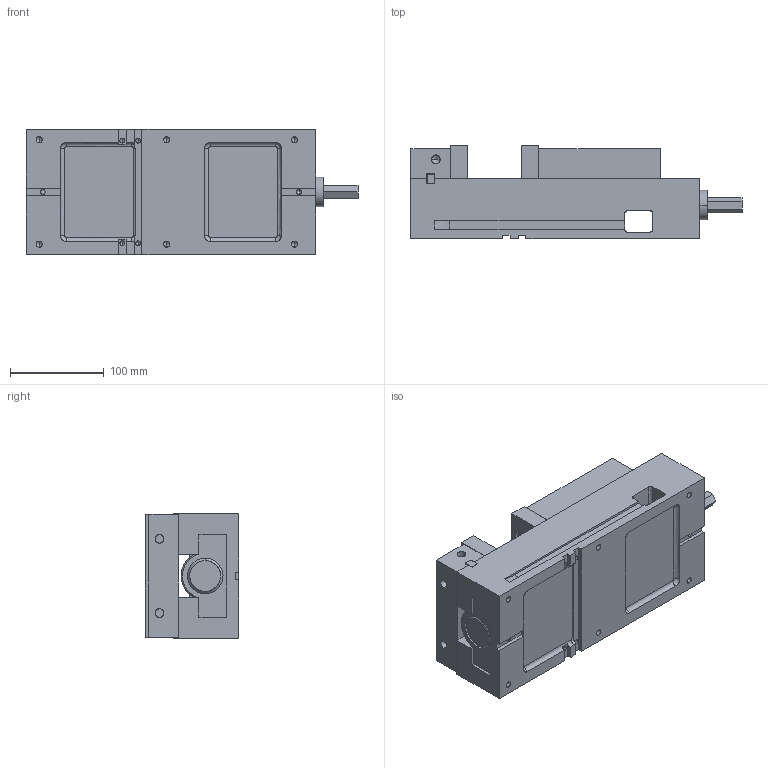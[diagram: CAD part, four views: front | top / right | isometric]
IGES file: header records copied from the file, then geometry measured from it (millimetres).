
Start section: SolidWorks IGES file using analytic representation for surfaces
Global section: file name: \\tormach-dc\Published Documents\Drawings\Files saved as other types\Solid_Models\MODELS FOR PUBLIC\31759_5_Inch_CNC_Vise.IGS; native system: SolidWorks 2014; preprocessor: SolidWorks 2014; author: rtooley; date: 160519.081951; units: millimetre
Bounding box: 355 x 100.2 x 134 mm (x, y, z)
Surface area: 360947.5 mm2 (no closed solid volume)
Topology: 0 solids, 0 shells, 943 faces, 17955 edges, 17921 vertices
Faces by surface type: revolution 543, bspline 400
